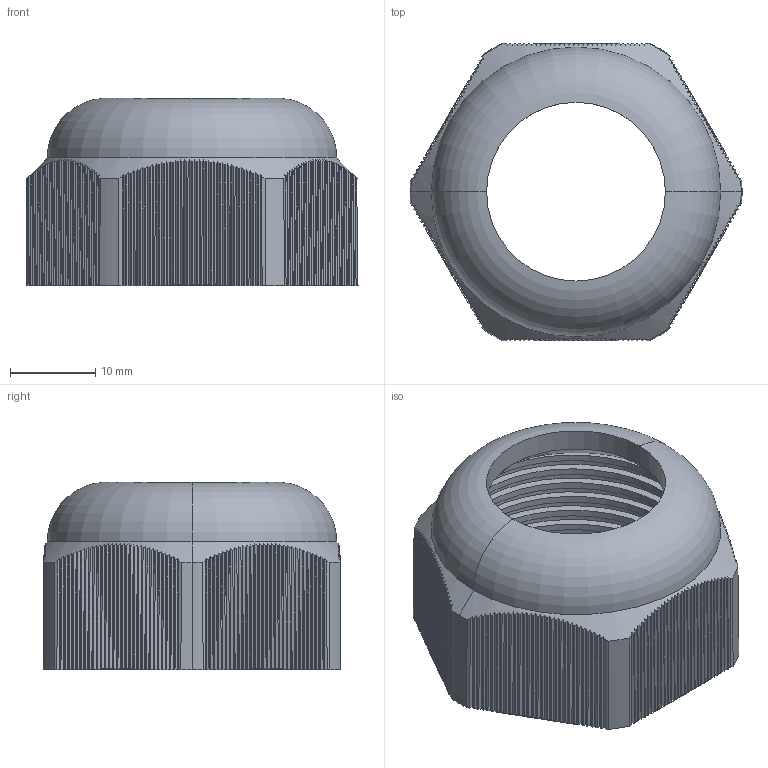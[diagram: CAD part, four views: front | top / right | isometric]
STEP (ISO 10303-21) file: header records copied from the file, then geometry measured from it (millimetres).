
FILE_DESCRIPTION (( 'STEP AP203' ), '1' );
FILE_NAME ('plc-pg-25-00.00.002 Ãàéêà öàíãîâàÿ (PG25) #collet nut (PG25)#.STEP', '2021-06-02T07:25:41', ( '' ), ( '' ), 'SwSTEP 2.0', 'SolidWorks 2021', '' );
FILE_SCHEMA (( 'CONFIG_CONTROL_DESIGN' ));
Length unit declared in the file: millimetre
Products named in the file (1): plc-pg-25-00.00.002 Ãàéêà öàíãîâàÿ (PG25) #collet nut (PG25)#
Bounding box: 39 x 35 x 22 mm (x, y, z)
Volume: 6674.2 mm3; surface area: 6911.8 mm2
Topology: 1 solids, 1 shells, 613 faces, 2141 edges, 1423 vertices
Faces by surface type: plane 556, cone 34, torus 11, cylinder 6, bspline 6
Entity records: 28985 total; most frequent: CARTESIAN_POINT 11364, ORIENTED_EDGE 4282, DIRECTION 2771, EDGE_CURVE 2141, LINE 1445, VECTOR 1445, VERTEX_POINT 1423, EDGE_LOOP 724
